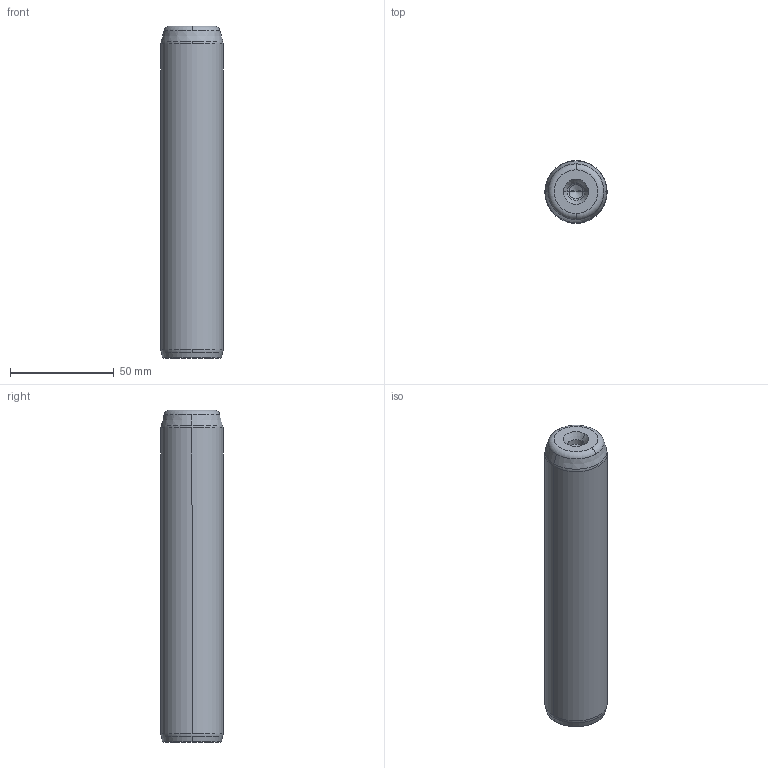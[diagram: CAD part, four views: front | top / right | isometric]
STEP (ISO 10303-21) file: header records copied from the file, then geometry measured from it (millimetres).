
FILE_DESCRIPTION((''),'2;1');
FILE_NAME('P10_030_160.stp','2008-12-23T14:59:08',(''),(''),'Mechanical Desktop 2009','Mechanical Desktop 2009',', , ');
FILE_SCHEMA(('CONFIG_CONTROL_DESIGN'));
Length unit declared in the file: millimetre
Products named in the file (5): Product; ProductAA; blmdl1; ProductA; blmdl1A
Assembly tree (2 placements, depth 3):
  Product
    ProductAA
      blmdl1
  ProductA
  blmdl1A
Bounding box: 30 x 30 x 160 mm (x, y, z)
Volume: 110943.5 mm3; surface area: 16662.3 mm2
Topology: 1 solids, 1 shells, 26 faces, 66 edges, 41 vertices
Faces by surface type: cone 10, torus 8, cylinder 6, plane 2
Entity records: 1012 total; most frequent: DIRECTION 170, CARTESIAN_POINT 134, ORIENTED_EDGE 128, AXIS2_PLACEMENT_3D 77, EDGE_CURVE 64, CIRCLE 48, VERTEX_POINT 41, EDGE_LOOP 27
